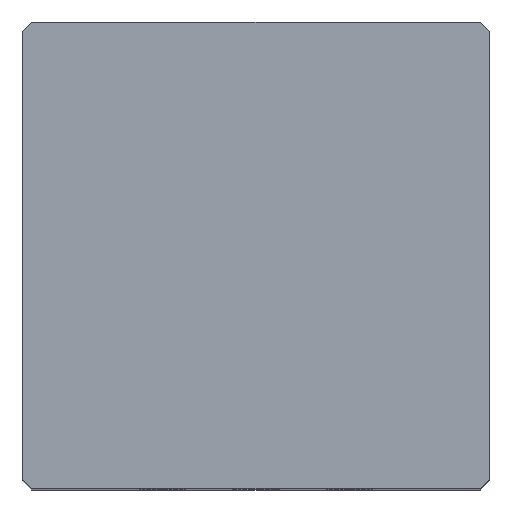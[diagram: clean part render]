
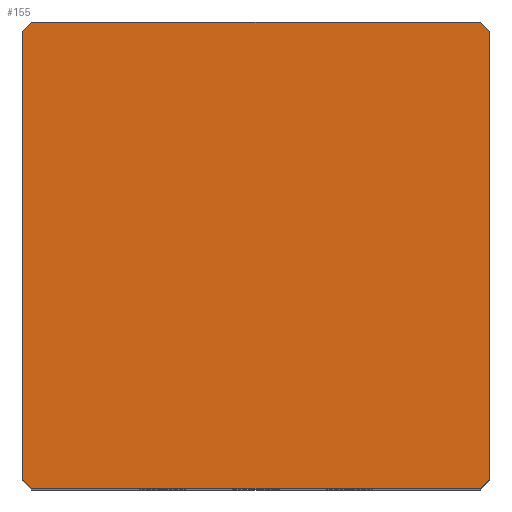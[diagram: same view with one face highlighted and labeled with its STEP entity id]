
A CAD part, top view. The second image highlights one B-rep face of the part: STEP entity #155.
In plain terms, the highlighted planar face has unit normal (0, 0, 1).
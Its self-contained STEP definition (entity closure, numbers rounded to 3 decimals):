
#39 = EDGE_CURVE('',#40,#42,#44,.T.);
#40 = VERTEX_POINT('',#41);
#41 = CARTESIAN_POINT('',(-10.,-9.6,25.25));
#42 = VERTEX_POINT('',#43);
#43 = CARTESIAN_POINT('',(-10.,9.6,25.25));
#44 = SURFACE_CURVE('',#45,(#49,#61),.PCURVE_S1.);
#45 = LINE('',#46,#47);
#46 = CARTESIAN_POINT('',(-10.,-10.,25.25));
#47 = VECTOR('',#48,1.);
#48 = DIRECTION('',(-0.,1.,0.));
#49 = PCURVE('',#50,#55);
#50 = PLANE('',#51);
#51 = AXIS2_PLACEMENT_3D('',#52,#53,#54);
#52 = CARTESIAN_POINT('',(-10.,-10.,0.));
#53 = DIRECTION('',(1.,0.,-0.));
#54 = DIRECTION('',(0.,0.,1.));
#55 = DEFINITIONAL_REPRESENTATION('',(#56),#60);
#56 = LINE('',#57,#58);
#57 = CARTESIAN_POINT('',(25.25,0.));
#58 = VECTOR('',#59,1.);
#59 = DIRECTION('',(0.,-1.));
#60 = ( GEOMETRIC_REPRESENTATION_CONTEXT(2) 
PARAMETRIC_REPRESENTATION_CONTEXT() REPRESENTATION_CONTEXT('2D SPACE',''
  ) );
#61 = PCURVE('',#62,#67);
#62 = PLANE('',#63);
#63 = AXIS2_PLACEMENT_3D('',#64,#65,#66);
#64 = CARTESIAN_POINT('',(-10.,-10.,25.25));
#65 = DIRECTION('',(0.,0.,1.));
#66 = DIRECTION('',(1.,0.,-0.));
#67 = DEFINITIONAL_REPRESENTATION('',(#68),#72);
#68 = LINE('',#69,#70);
#69 = CARTESIAN_POINT('',(0.,0.));
#70 = VECTOR('',#71,1.);
#71 = DIRECTION('',(0.,1.));
#72 = ( GEOMETRIC_REPRESENTATION_CONTEXT(2) 
PARAMETRIC_REPRESENTATION_CONTEXT() REPRESENTATION_CONTEXT('2D SPACE',''
  ) );
#90 = PLANE('',#91);
#91 = AXIS2_PLACEMENT_3D('',#92,#93,#94);
#92 = CARTESIAN_POINT('',(-9.8,-9.8,0.));
#93 = DIRECTION('',(-0.707,-0.707,0.));
#94 = DIRECTION('',(-0.,-0.,-1.));
#144 = PLANE('',#145);
#145 = AXIS2_PLACEMENT_3D('',#146,#147,#148);
#146 = CARTESIAN_POINT('',(-9.8,9.8,0.));
#147 = DIRECTION('',(0.707,-0.707,0.));
#148 = DIRECTION('',(-0.,-0.,-1.));
#155 = ADVANCED_FACE('',(#156),#62,.T.);
#156 = FACE_BOUND('',#157,.T.);
#157 = EDGE_LOOP('',(#158,#159,#182,#210,#238,#266,#294,#322));
#158 = ORIENTED_EDGE('',*,*,#39,.F.);
#159 = ORIENTED_EDGE('',*,*,#160,.T.);
#160 = EDGE_CURVE('',#40,#161,#163,.T.);
#161 = VERTEX_POINT('',#162);
#162 = CARTESIAN_POINT('',(-9.6,-10.,25.25));
#163 = SURFACE_CURVE('',#164,(#168,#175),.PCURVE_S1.);
#164 = LINE('',#165,#166);
#165 = CARTESIAN_POINT('',(-9.8,-9.8,25.25));
#166 = VECTOR('',#167,1.);
#167 = DIRECTION('',(0.707,-0.707,0.));
#168 = PCURVE('',#62,#169);
#169 = DEFINITIONAL_REPRESENTATION('',(#170),#174);
#170 = LINE('',#171,#172);
#171 = CARTESIAN_POINT('',(0.2,0.2));
#172 = VECTOR('',#173,1.);
#173 = DIRECTION('',(0.707,-0.707));
#174 = ( GEOMETRIC_REPRESENTATION_CONTEXT(2) 
PARAMETRIC_REPRESENTATION_CONTEXT() REPRESENTATION_CONTEXT('2D SPACE',''
  ) );
#175 = PCURVE('',#90,#176);
#176 = DEFINITIONAL_REPRESENTATION('',(#177),#181);
#177 = LINE('',#178,#179);
#178 = CARTESIAN_POINT('',(-25.25,0.));
#179 = VECTOR('',#180,1.);
#180 = DIRECTION('',(-0.,1.));
#181 = ( GEOMETRIC_REPRESENTATION_CONTEXT(2) 
PARAMETRIC_REPRESENTATION_CONTEXT() REPRESENTATION_CONTEXT('2D SPACE',''
  ) );
#182 = ORIENTED_EDGE('',*,*,#183,.T.);
#183 = EDGE_CURVE('',#161,#184,#186,.T.);
#184 = VERTEX_POINT('',#185);
#185 = CARTESIAN_POINT('',(9.6,-10.,25.25));
#186 = SURFACE_CURVE('',#187,(#191,#198),.PCURVE_S1.);
#187 = LINE('',#188,#189);
#188 = CARTESIAN_POINT('',(-10.,-10.,25.25));
#189 = VECTOR('',#190,1.);
#190 = DIRECTION('',(1.,0.,-0.));
#191 = PCURVE('',#62,#192);
#192 = DEFINITIONAL_REPRESENTATION('',(#193),#197);
#193 = LINE('',#194,#195);
#194 = CARTESIAN_POINT('',(0.,0.));
#195 = VECTOR('',#196,1.);
#196 = DIRECTION('',(1.,0.));
#197 = ( GEOMETRIC_REPRESENTATION_CONTEXT(2) 
PARAMETRIC_REPRESENTATION_CONTEXT() REPRESENTATION_CONTEXT('2D SPACE',''
  ) );
#198 = PCURVE('',#199,#204);
#199 = PLANE('',#200);
#200 = AXIS2_PLACEMENT_3D('',#201,#202,#203);
#201 = CARTESIAN_POINT('',(-10.,-10.,0.));
#202 = DIRECTION('',(-0.,1.,0.));
#203 = DIRECTION('',(0.,0.,1.));
#204 = DEFINITIONAL_REPRESENTATION('',(#205),#209);
#205 = LINE('',#206,#207);
#206 = CARTESIAN_POINT('',(25.25,0.));
#207 = VECTOR('',#208,1.);
#208 = DIRECTION('',(0.,1.));
#209 = ( GEOMETRIC_REPRESENTATION_CONTEXT(2) 
PARAMETRIC_REPRESENTATION_CONTEXT() REPRESENTATION_CONTEXT('2D SPACE',''
  ) );
#210 = ORIENTED_EDGE('',*,*,#211,.F.);
#211 = EDGE_CURVE('',#212,#184,#214,.T.);
#212 = VERTEX_POINT('',#213);
#213 = CARTESIAN_POINT('',(10.,-9.6,25.25));
#214 = SURFACE_CURVE('',#215,(#219,#226),.PCURVE_S1.);
#215 = LINE('',#216,#217);
#216 = CARTESIAN_POINT('',(4.8,-14.8,25.25));
#217 = VECTOR('',#218,1.);
#218 = DIRECTION('',(-0.707,-0.707,0.));
#219 = PCURVE('',#62,#220);
#220 = DEFINITIONAL_REPRESENTATION('',(#221),#225);
#221 = LINE('',#222,#223);
#222 = CARTESIAN_POINT('',(14.8,-4.8));
#223 = VECTOR('',#224,1.);
#224 = DIRECTION('',(-0.707,-0.707));
#225 = ( GEOMETRIC_REPRESENTATION_CONTEXT(2) 
PARAMETRIC_REPRESENTATION_CONTEXT() REPRESENTATION_CONTEXT('2D SPACE',''
  ) );
#226 = PCURVE('',#227,#232);
#227 = PLANE('',#228);
#228 = AXIS2_PLACEMENT_3D('',#229,#230,#231);
#229 = CARTESIAN_POINT('',(9.8,-9.8,0.));
#230 = DIRECTION('',(-0.707,0.707,0.));
#231 = DIRECTION('',(-0.,-0.,-1.));
#232 = DEFINITIONAL_REPRESENTATION('',(#233),#237);
#233 = LINE('',#234,#235);
#234 = CARTESIAN_POINT('',(-25.25,7.071));
#235 = VECTOR('',#236,1.);
#236 = DIRECTION('',(-0.,1.));
#237 = ( GEOMETRIC_REPRESENTATION_CONTEXT(2) 
PARAMETRIC_REPRESENTATION_CONTEXT() REPRESENTATION_CONTEXT('2D SPACE',''
  ) );
#238 = ORIENTED_EDGE('',*,*,#239,.T.);
#239 = EDGE_CURVE('',#212,#240,#242,.T.);
#240 = VERTEX_POINT('',#241);
#241 = CARTESIAN_POINT('',(10.,9.6,25.25));
#242 = SURFACE_CURVE('',#243,(#247,#254),.PCURVE_S1.);
#243 = LINE('',#244,#245);
#244 = CARTESIAN_POINT('',(10.,-10.,25.25));
#245 = VECTOR('',#246,1.);
#246 = DIRECTION('',(-0.,1.,0.));
#247 = PCURVE('',#62,#248);
#248 = DEFINITIONAL_REPRESENTATION('',(#249),#253);
#249 = LINE('',#250,#251);
#250 = CARTESIAN_POINT('',(20.,0.));
#251 = VECTOR('',#252,1.);
#252 = DIRECTION('',(0.,1.));
#253 = ( GEOMETRIC_REPRESENTATION_CONTEXT(2) 
PARAMETRIC_REPRESENTATION_CONTEXT() REPRESENTATION_CONTEXT('2D SPACE',''
  ) );
#254 = PCURVE('',#255,#260);
#255 = PLANE('',#256);
#256 = AXIS2_PLACEMENT_3D('',#257,#258,#259);
#257 = CARTESIAN_POINT('',(10.,-10.,0.));
#258 = DIRECTION('',(1.,0.,-0.));
#259 = DIRECTION('',(0.,0.,1.));
#260 = DEFINITIONAL_REPRESENTATION('',(#261),#265);
#261 = LINE('',#262,#263);
#262 = CARTESIAN_POINT('',(25.25,0.));
#263 = VECTOR('',#264,1.);
#264 = DIRECTION('',(0.,-1.));
#265 = ( GEOMETRIC_REPRESENTATION_CONTEXT(2) 
PARAMETRIC_REPRESENTATION_CONTEXT() REPRESENTATION_CONTEXT('2D SPACE',''
  ) );
#266 = ORIENTED_EDGE('',*,*,#267,.T.);
#267 = EDGE_CURVE('',#240,#268,#270,.T.);
#268 = VERTEX_POINT('',#269);
#269 = CARTESIAN_POINT('',(9.6,10.,25.25));
#270 = SURFACE_CURVE('',#271,(#275,#282),.PCURVE_S1.);
#271 = LINE('',#272,#273);
#272 = CARTESIAN_POINT('',(9.8,9.8,25.25));
#273 = VECTOR('',#274,1.);
#274 = DIRECTION('',(-0.707,0.707,0.));
#275 = PCURVE('',#62,#276);
#276 = DEFINITIONAL_REPRESENTATION('',(#277),#281);
#277 = LINE('',#278,#279);
#278 = CARTESIAN_POINT('',(19.8,19.8));
#279 = VECTOR('',#280,1.);
#280 = DIRECTION('',(-0.707,0.707));
#281 = ( GEOMETRIC_REPRESENTATION_CONTEXT(2) 
PARAMETRIC_REPRESENTATION_CONTEXT() REPRESENTATION_CONTEXT('2D SPACE',''
  ) );
#282 = PCURVE('',#283,#288);
#283 = PLANE('',#284);
#284 = AXIS2_PLACEMENT_3D('',#285,#286,#287);
#285 = CARTESIAN_POINT('',(9.8,9.8,0.));
#286 = DIRECTION('',(0.707,0.707,0.));
#287 = DIRECTION('',(-0.,0.,-1.));
#288 = DEFINITIONAL_REPRESENTATION('',(#289),#293);
#289 = LINE('',#290,#291);
#290 = CARTESIAN_POINT('',(-25.25,0.));
#291 = VECTOR('',#292,1.);
#292 = DIRECTION('',(-0.,1.));
#293 = ( GEOMETRIC_REPRESENTATION_CONTEXT(2) 
PARAMETRIC_REPRESENTATION_CONTEXT() REPRESENTATION_CONTEXT('2D SPACE',''
  ) );
#294 = ORIENTED_EDGE('',*,*,#295,.F.);
#295 = EDGE_CURVE('',#296,#268,#298,.T.);
#296 = VERTEX_POINT('',#297);
#297 = CARTESIAN_POINT('',(-9.6,10.,25.25));
#298 = SURFACE_CURVE('',#299,(#303,#310),.PCURVE_S1.);
#299 = LINE('',#300,#301);
#300 = CARTESIAN_POINT('',(-10.,10.,25.25));
#301 = VECTOR('',#302,1.);
#302 = DIRECTION('',(1.,0.,-0.));
#303 = PCURVE('',#62,#304);
#304 = DEFINITIONAL_REPRESENTATION('',(#305),#309);
#305 = LINE('',#306,#307);
#306 = CARTESIAN_POINT('',(0.,20.));
#307 = VECTOR('',#308,1.);
#308 = DIRECTION('',(1.,0.));
#309 = ( GEOMETRIC_REPRESENTATION_CONTEXT(2) 
PARAMETRIC_REPRESENTATION_CONTEXT() REPRESENTATION_CONTEXT('2D SPACE',''
  ) );
#310 = PCURVE('',#311,#316);
#311 = PLANE('',#312);
#312 = AXIS2_PLACEMENT_3D('',#313,#314,#315);
#313 = CARTESIAN_POINT('',(-10.,10.,0.));
#314 = DIRECTION('',(-0.,1.,0.));
#315 = DIRECTION('',(0.,0.,1.));
#316 = DEFINITIONAL_REPRESENTATION('',(#317),#321);
#317 = LINE('',#318,#319);
#318 = CARTESIAN_POINT('',(25.25,0.));
#319 = VECTOR('',#320,1.);
#320 = DIRECTION('',(0.,1.));
#321 = ( GEOMETRIC_REPRESENTATION_CONTEXT(2) 
PARAMETRIC_REPRESENTATION_CONTEXT() REPRESENTATION_CONTEXT('2D SPACE',''
  ) );
#322 = ORIENTED_EDGE('',*,*,#323,.F.);
#323 = EDGE_CURVE('',#42,#296,#324,.T.);
#324 = SURFACE_CURVE('',#325,(#329,#336),.PCURVE_S1.);
#325 = LINE('',#326,#327);
#326 = CARTESIAN_POINT('',(-14.8,4.8,25.25));
#327 = VECTOR('',#328,1.);
#328 = DIRECTION('',(0.707,0.707,-0.));
#329 = PCURVE('',#62,#330);
#330 = DEFINITIONAL_REPRESENTATION('',(#331),#335);
#331 = LINE('',#332,#333);
#332 = CARTESIAN_POINT('',(-4.8,14.8));
#333 = VECTOR('',#334,1.);
#334 = DIRECTION('',(0.707,0.707));
#335 = ( GEOMETRIC_REPRESENTATION_CONTEXT(2) 
PARAMETRIC_REPRESENTATION_CONTEXT() REPRESENTATION_CONTEXT('2D SPACE',''
  ) );
#336 = PCURVE('',#144,#337);
#337 = DEFINITIONAL_REPRESENTATION('',(#338),#342);
#338 = LINE('',#339,#340);
#339 = CARTESIAN_POINT('',(-25.25,-7.071));
#340 = VECTOR('',#341,1.);
#341 = DIRECTION('',(-0.,1.));
#342 = ( GEOMETRIC_REPRESENTATION_CONTEXT(2) 
PARAMETRIC_REPRESENTATION_CONTEXT() REPRESENTATION_CONTEXT('2D SPACE',''
  ) );
